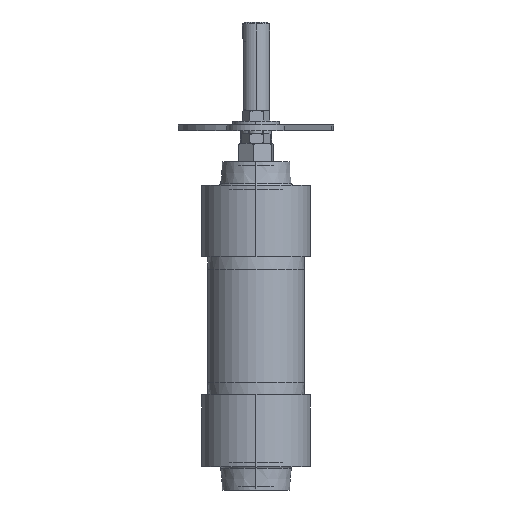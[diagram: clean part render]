
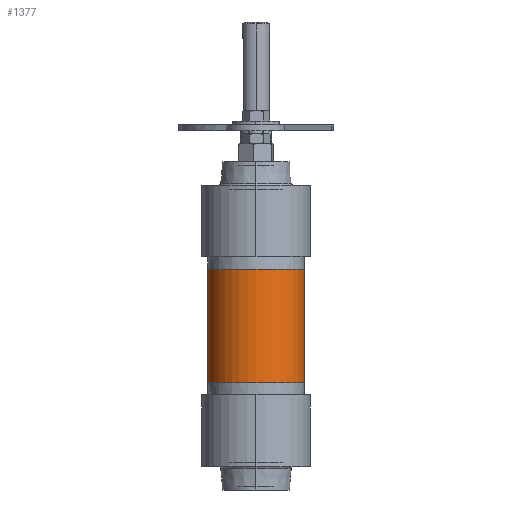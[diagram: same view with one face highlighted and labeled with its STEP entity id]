
A CAD part, left-side view. The second image highlights one B-rep face of the part: STEP entity #1377.
In plain terms, the highlighted cylindrical face has radius 25 mm (diameter 50 mm), a partial arc.
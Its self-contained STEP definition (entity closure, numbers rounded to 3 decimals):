
#141 = VECTOR ( 'NONE', #1332, 1000. ) ;
#278 = CARTESIAN_POINT ( 'NONE',  ( 29.25, -25., 0. ) ) ;
#364 = VERTEX_POINT ( 'NONE', #7859 ) ;
#1332 = DIRECTION ( 'NONE',  ( -1., 0., 0. ) ) ;
#1377 = ADVANCED_FACE ( 'NONE', ( #8374 ), #14525, .T. ) ;
#1888 = EDGE_CURVE ( 'NONE', #3090, #12163, #12061, .T. ) ;
#2113 = EDGE_CURVE ( 'NONE', #12163, #364, #12254, .T. ) ;
#2675 = AXIS2_PLACEMENT_3D ( 'NONE', #12681, #4884, #14016 ) ;
#3090 = VERTEX_POINT ( 'NONE', #11671 ) ;
#4078 = CARTESIAN_POINT ( 'NONE',  ( -81.5, 0., 0. ) ) ;
#4291 = DIRECTION ( 'NONE',  ( 0., -1., 0. ) ) ;
#4392 = EDGE_CURVE ( 'NONE', #6401, #364, #10940, .T. ) ;
#4766 = DIRECTION ( 'NONE',  ( -1., 0., 0. ) ) ;
#4884 = DIRECTION ( 'NONE',  ( -1., 0., 0. ) ) ;
#6401 = VERTEX_POINT ( 'NONE', #278 ) ;
#7458 = DIRECTION ( 'NONE',  ( -1., 0., 0. ) ) ;
#7859 = CARTESIAN_POINT ( 'NONE',  ( -29.25, -25., 0. ) ) ;
#8374 = FACE_OUTER_BOUND ( 'NONE', #14673, .T. ) ;
#8956 = ORIENTED_EDGE ( 'NONE', *, *, #16537, .T. ) ;
#9066 = CIRCLE ( 'NONE', #2675, 25. ) ;
#9159 = CARTESIAN_POINT ( 'NONE',  ( -29.25, 25., 0. ) ) ;
#9201 = DIRECTION ( 'NONE',  ( -1., 0., 0. ) ) ;
#9300 = CARTESIAN_POINT ( 'NONE',  ( -81.5, 25., 0. ) ) ;
#10187 = DIRECTION ( 'NONE',  ( 0., -1., 0. ) ) ;
#10435 = CARTESIAN_POINT ( 'NONE',  ( -81.5, -25., 0. ) ) ;
#10940 = LINE ( 'NONE', #10435, #141 ) ;
#11671 = CARTESIAN_POINT ( 'NONE',  ( 29.25, 25., 0. ) ) ;
#12061 = LINE ( 'NONE', #9300, #15581 ) ;
#12163 = VERTEX_POINT ( 'NONE', #9159 ) ;
#12205 = AXIS2_PLACEMENT_3D ( 'NONE', #16491, #7458, #10187 ) ;
#12254 = CIRCLE ( 'NONE', #12205, 25. ) ;
#12681 = CARTESIAN_POINT ( 'NONE',  ( 29.25, 0., 0. ) ) ;
#13946 = ORIENTED_EDGE ( 'NONE', *, *, #1888, .F. ) ;
#14016 = DIRECTION ( 'NONE',  ( 0., -1., 0. ) ) ;
#14525 = CYLINDRICAL_SURFACE ( 'NONE', #16723, 25. ) ;
#14673 = EDGE_LOOP ( 'NONE', ( #13946, #8956, #16881, #16414 ) ) ;
#15581 = VECTOR ( 'NONE', #4766, 1000. ) ;
#16414 = ORIENTED_EDGE ( 'NONE', *, *, #2113, .F. ) ;
#16491 = CARTESIAN_POINT ( 'NONE',  ( -29.25, 0., 0. ) ) ;
#16537 = EDGE_CURVE ( 'NONE', #3090, #6401, #9066, .T. ) ;
#16723 = AXIS2_PLACEMENT_3D ( 'NONE', #4078, #9201, #4291 ) ;
#16881 = ORIENTED_EDGE ( 'NONE', *, *, #4392, .T. ) ;
